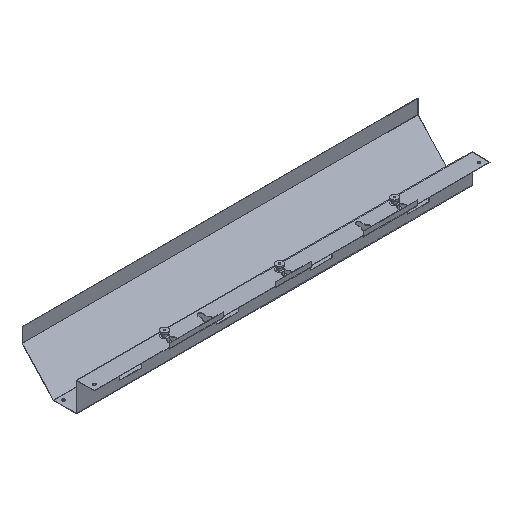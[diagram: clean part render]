
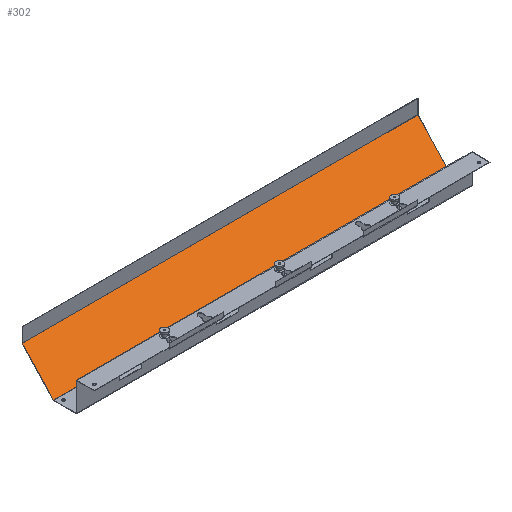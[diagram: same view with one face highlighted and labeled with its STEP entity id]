
A CAD part, isometric view. The second image highlights one B-rep face of the part: STEP entity #302.
In plain terms, the highlighted planar face has unit normal (0, -0.736, 0.678).
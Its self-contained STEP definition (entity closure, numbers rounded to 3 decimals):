
#302 = ADVANCED_FACE( '', ( #672 ), #673, .F. );
#672 = FACE_OUTER_BOUND( '', #1063, .T. );
#673 = PLANE( '', #1064 );
#1063 = EDGE_LOOP( '', ( #1920, #1921, #1922, #1923 ) );
#1064 = AXIS2_PLACEMENT_3D( '', #1924, #1925, #1926 );
#1920 = ORIENTED_EDGE( '', *, *, #2295, .T. );
#1921 = ORIENTED_EDGE( '', *, *, #2364, .F. );
#1922 = ORIENTED_EDGE( '', *, *, #2460, .F. );
#1923 = ORIENTED_EDGE( '', *, *, #2357, .T. );
#1924 = CARTESIAN_POINT( '', ( 870., 165., 0.89 ) );
#1925 = DIRECTION( '', ( 0., 0.735, -0.678 ) );
#1926 = DIRECTION( '', ( 0., 0.678, 0.735 ) );
#2295 = EDGE_CURVE( '', #2799, #2797, #2800, .T. );
#2357 = EDGE_CURVE( '', #2889, #2799, #2890, .T. );
#2364 = EDGE_CURVE( '', #2899, #2797, #2901, .T. );
#2460 = EDGE_CURVE( '', #2889, #2899, #3031, .T. );
#2797 = VERTEX_POINT( '', #3473 );
#2799 = VERTEX_POINT( '', #3476 );
#2800 = LINE( '', #3477, #3478 );
#2889 = VERTEX_POINT( '', #3595 );
#2890 = LINE( '', #3596, #3597 );
#2899 = VERTEX_POINT( '', #3608 );
#2901 = LINE( '', #3611, #3612 );
#3031 = LINE( '', #3795, #3796 );
#3473 = CARTESIAN_POINT( '', ( -230., 78.5, -93. ) );
#3476 = CARTESIAN_POINT( '', ( -230., 165., 0.89 ) );
#3477 = CARTESIAN_POINT( '', ( -230., 165., 0.89 ) );
#3478 = VECTOR( '', #4084, 1000. );
#3595 = CARTESIAN_POINT( '', ( 870., 165., 0.89 ) );
#3596 = CARTESIAN_POINT( '', ( 870., 165., 0.89 ) );
#3597 = VECTOR( '', #4155, 1000. );
#3608 = CARTESIAN_POINT( '', ( 870., 78.5, -93. ) );
#3611 = CARTESIAN_POINT( '', ( 870., 78.5, -93. ) );
#3612 = VECTOR( '', #4165, 1000. );
#3795 = CARTESIAN_POINT( '', ( 870., 165., 0.89 ) );
#3796 = VECTOR( '', #4255, 1000. );
#4084 = DIRECTION( '', ( 0., -0.678, -0.735 ) );
#4155 = DIRECTION( '', ( -1., 0., 0. ) );
#4165 = DIRECTION( '', ( -1., 0., 0. ) );
#4255 = DIRECTION( '', ( 0., -0.678, -0.735 ) );
